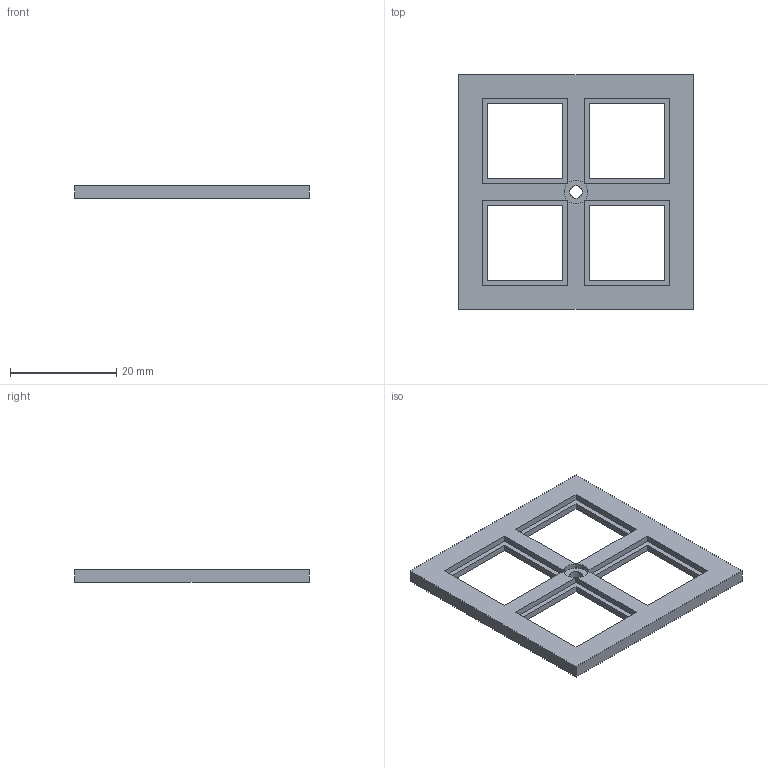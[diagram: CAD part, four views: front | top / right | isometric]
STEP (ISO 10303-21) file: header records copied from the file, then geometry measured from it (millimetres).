
FILE_DESCRIPTION(('Open CASCADE Model'),'2;1');
FILE_NAME('Open CASCADE Shape Model','2026-10-07T17:16:53',('Author'),( 'Open CASCADE'),'Open CASCADE STEP processor 8.0','build123d', 'Unknown');
FILE_SCHEMA(('AUTOMOTIVE_DESIGN { 1 0 10303 214 1 1 1 1 }'));
Length unit declared in the file: millimetre
Products named in the file (1): COMPOUND
Bounding box: 44.1 x 44.1 x 2.4 mm (x, y, z)
Volume: 2456 mm3; surface area: 3304.3 mm2
Topology: 1 solids, 1 shells, 48 faces, 135 edges, 90 vertices
Faces by surface type: plane 43, cylinder 5
Full cylindrical faces by diameter (mm): 2.3 x1
Entity records: 3176 total; most frequent: CARTESIAN_POINT 700, DIRECTION 367, ORIENTED_EDGE 270, PCURVE 270, DEFINITIONAL_REPRESENTATION 270, LINE 241, VECTOR 241, B_SPLINE_CURVE_WITH_KNOTS 144
